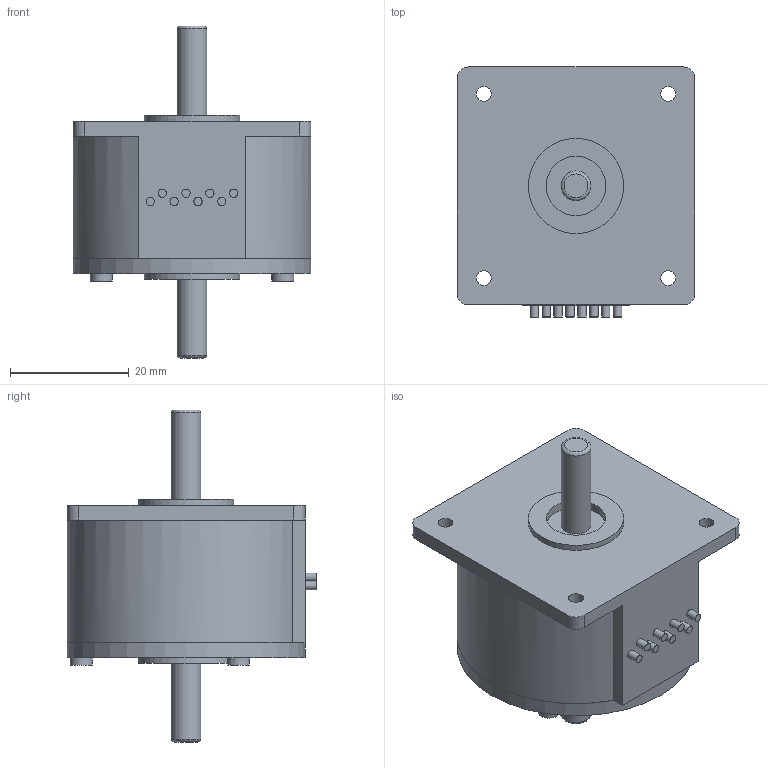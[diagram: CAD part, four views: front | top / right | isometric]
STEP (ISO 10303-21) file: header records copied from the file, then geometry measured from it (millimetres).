
FILE_DESCRIPTION(/* description */ (''),/* implementation_level */ '2;1');
FILE_NAME(/* name */ 'DM4026_01.stp',/* time_stamp */ '2019-08-07T08:20:37+02:00',/* author */ ('DR. FRITZ FAULHABER GmbH & Co. KG'),/* organization */ ('DR. FRITZ FAULHABER GmbH & Co. KG'),/* preprocessor_version */ 'ST-DEVELOPER v16.7',/* originating_system */ 'SIEMENS PLM Software NX 12.0',/* authorisation */ '');
FILE_SCHEMA (('AUTOMOTIVE_DESIGN { 1 0 10303 214 3 1 1 1 }'));
Length unit declared in the file: millimetre
Products named in the file (1): H00002255-A-4026.0H002
Bounding box: 40 x 42 x 55.8 mm (x, y, z)
Volume: 34072.3 mm3; surface area: 7393.2 mm2
Topology: 1 solids, 1 shells, 59 faces, 124 edges, 86 vertices
Faces by surface type: plane 29, cylinder 25, cone 3, torus 2
Full cylindrical faces by diameter (mm): 1.4 x8, 2.5 x4, 5 x2, 10 x2, 16 x2, 40 x2
Entity records: 1406 total; most frequent: DIRECTION 256, CARTESIAN_POINT 238, ORIENTED_EDGE 168, AXIS2_PLACEMENT_3D 116, EDGE_LOOP 110, FACE_BOUND 87, EDGE_CURVE 84, VERTEX_POINT 72
